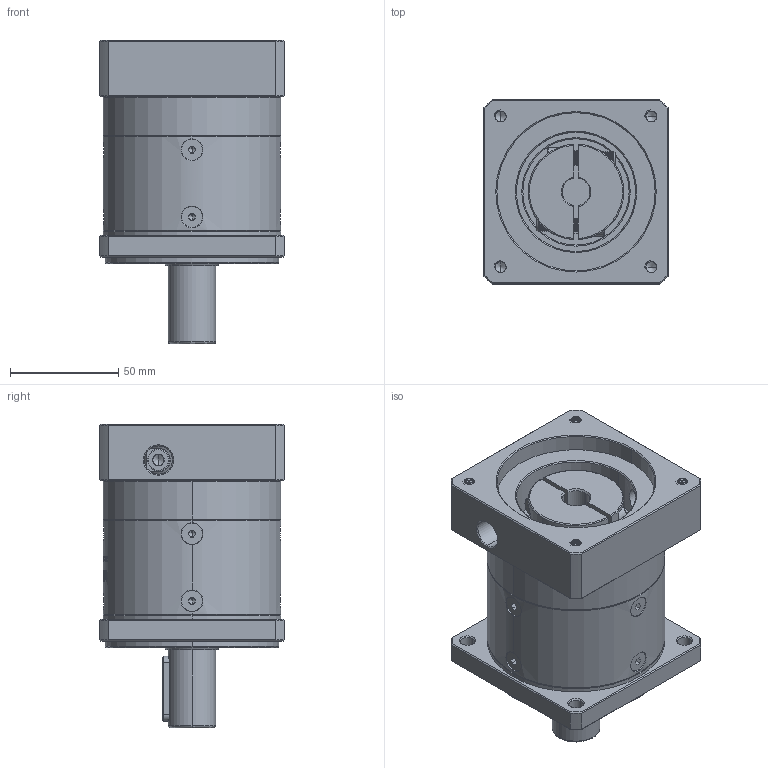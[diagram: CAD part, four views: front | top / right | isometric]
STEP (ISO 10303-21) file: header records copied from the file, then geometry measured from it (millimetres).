
FILE_DESCRIPTION (( 'STEP AP214' ), '1' );
FILE_NAME ('ZF80-D22-L1-12.7-73-69.5X69.5-M6.step', '2022-05-08T09:16:35', ( '' ), ( 'Microsoft' ), 'SwSTEP 2.0', 'SolidWorks 2016', '' );
FILE_SCHEMA (( 'AUTOMOTIVE_DESIGN' ));
Length unit declared in the file: millimetre
Products named in the file (1): ZF80-D22-L1-12.7-73-69.5X69.5-M6
Bounding box: 85 x 85 x 140 mm (x, y, z)
Volume: 547018.8 mm3; surface area: 89466.4 mm2
Topology: 13 solids, 13 shells, 1980 faces, 5128 edges, 3242 vertices
Faces by surface type: plane 896, cylinder 408, cone 339, bspline 320, torus 17
Entity records: 107866 total; most frequent: CARTESIAN_POINT 41350, ORIENTED_EDGE 10196, DIRECTION 8039, EDGE_CURVE 5098, VERTEX_POINT 3242, VECTOR 2767, LINE 2767, AXIS2_PLACEMENT_3D 2636
